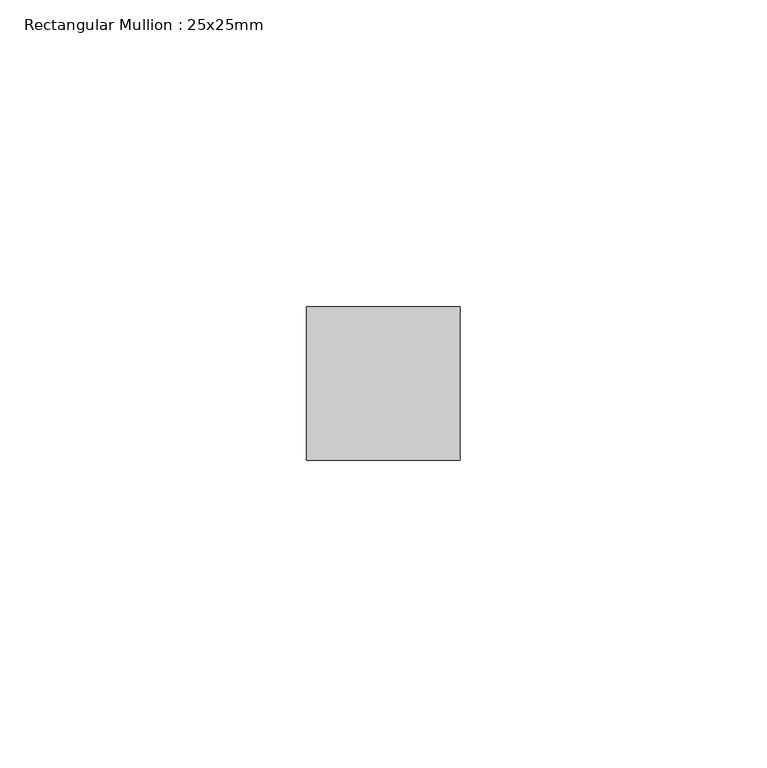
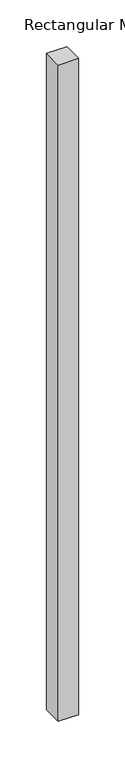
"""IFC4 building model written with IfcOpenShell, lengths in millimetres: member geometry, Rectangular Mullion : 25x25mm."""

from ifc_helpers import new_model, si_unit, frame, origin, place, context, project, spatial, polyline, outline, extrude, source, transform, mapped, element, save


def rectangular_mullion_25x25mm_4965c664(model_context):
    return source(origin(), model_context, "Body", "SweptSolid", [
        extrude(outline(polyline([(0.0, 24.5), (0.0, -0.5), (-25.0, -0.5), (-25.0, 24.5), (0.0, 24.5)])), frame((0.0, 0.0, -856.2836064), z_axis=(0.0, 0.0, 1.0), x_axis=(1.0, 0.0, 0.0)), (0.0, 0.0, 1.0), 856.2836064),
    ])


if __name__ == "__main__":
    model = new_model("IFC4")
    model_context = context("Model", 3, world=origin())
    ifc_project = project(units=[si_unit("LENGTHUNIT", "METRE", prefix="MILLI")], contexts=[model_context])
    site = spatial("IfcSite", under=ifc_project)
    building = spatial("IfcBuilding", under=site)
    placement = place(None, origin())
    rectangular_mullion_25x25mm_shape = rectangular_mullion_25x25mm_4965c664(model_context)
    element("IfcMember", 1, ObjectType="Rectangular Mullion : 25x25mm", at=placement, inside=building, context=model_context, shape_type="MappedRepresentation", body=[
        mapped(rectangular_mullion_25x25mm_shape, transform((0.0, 0.0, 0.0), x_axis=(1.0, 0.0, 0.0), y_axis=(0.0, 1.0, 0.0), z_axis=(0.0, 0.0, 1.0))),
    ])
    save(model, "model.ifc")
